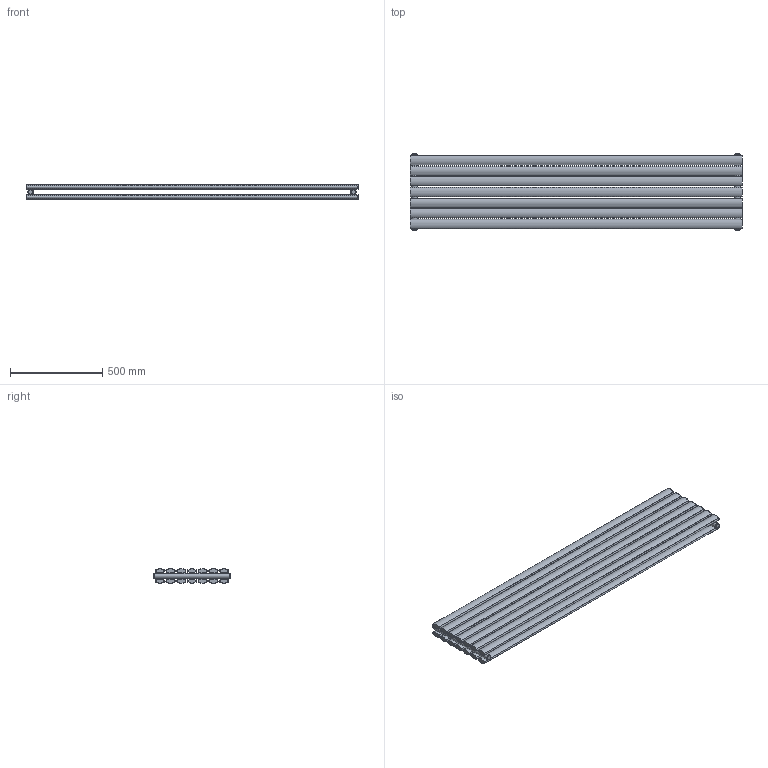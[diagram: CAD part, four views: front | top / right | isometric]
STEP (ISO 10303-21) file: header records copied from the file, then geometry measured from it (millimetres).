
FILE_DESCRIPTION(/* description */ (''),/* implementation_level */ '2;1');
FILE_NAME(/* name */ 'C:\Grzejniki\13DLUXRAD\pokojowe\FORTUNA\FORTUNA PODWÓJNA 1800x410.iam.stp',/* time_stamp */ '2016-06-28T17:31:48+02:00',/* author */ ('m.szydziak'),/* organization */ (''),/* preprocessor_version */ 'ST-DEVELOPER v16.5',/* originating_system */ 'Autodesk Inventor 2017',/* authorisation */ '');
FILE_SCHEMA (('AUTOMOTIVE_DESIGN { 1 0 10303 214 3 1 1 }'));
Length unit declared in the file: millimetre
Products named in the file (5): FORTUNA PODWÓJNA 1800x410; %%c30x1,5x410; 50x25x1,2x1800; zaślepka fi30 G0,5inch; korek
Assembly tree (24 placements, depth 2):
  FORTUNA PODWÓJNA 1800x410
    %%c30x1,5x410  x2
    50x25x1,2x1800  x14
    zaślepka fi30 G0,5inch  x4
    korek  x4
Bounding box: 1800 x 422 x 79.72 mm (x, y, z)
Volume: 3678040.4 mm3; surface area: 6083704.4 mm2
Topology: 24 solids, 24 shells, 294 faces, 742 edges, 524 vertices
Faces by surface type: cylinder 170, plane 124
Full cylindrical faces by diameter (mm): 5 x14, 5.8 x28, 18.631 x4, 24 x4, 27 x6, 30 x2
Entity records: 2160 total; most frequent: CARTESIAN_POINT 857, DIRECTION 252, ORIENTED_EDGE 192, AXIS2_PLACEMENT_3D 110, EDGE_CURVE 96, EDGE_LOOP 80, VERTEX_POINT 76, FACE_OUTER_BOUND 44
